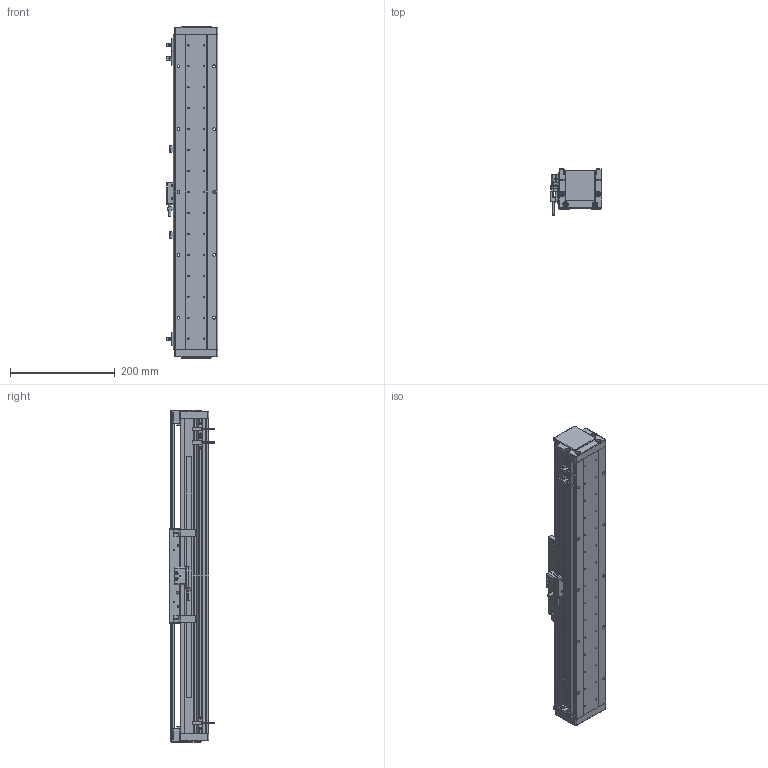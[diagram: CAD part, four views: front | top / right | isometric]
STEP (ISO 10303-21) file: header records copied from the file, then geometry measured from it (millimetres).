
FILE_DESCRIPTION (( 'STEP AP203' ), '1' );
FILE_NAME ('DA-A82-B2-T380-C010-0.2 眻盄萇儂.STEP', '2025-08-13T03:03:44', ( '' ), ( '' ), 'SwSTEP 2.0', 'SolidWorks 2019', '' );
FILE_SCHEMA (( 'CONFIG_CONTROL_DESIGN' ));
Length unit declared in the file: millimetre
Products named in the file (21): AU82-HT-M-00 賑雄怢啣; 复件 纯铜油杯 6x6mm^AU82-M 滚珠滑台; 复件 DA82-DG-H-N-00 端盖^DA-A82-B2-T-C010-0.2(默认_按加工_); 复件 复件 DA82-XJ-00 缓冲橡胶^DA-A82-B2-T-C010-0.2; DA-A82-B2-T380-C010-0.2 眻盄萇儂; 复件 DA95-GT-T-00 底座钢轨^IU-AU82-L 底座导轨; 葩璃 PM-T45^DA-A82-B2-T-C010-0.2; IU-AU82-L 菁釱絳寢; AU82-M-00 珨极趙賑雄怢啣; 葩璃 DA82-T-002-00 裔啣^DA-A82-B2-T-C010-0.2; 葩璃 DA60-DMT-DTJ-00 黍杅芛盓殤^DA-A82-B2-T-C010-0.2; AU82-M 幗紩賑怢; 葩璃 DMT-010 1米m 0.2M^DA-A82-B2-T-C010-0.2; ｸｴｼ BKM02-W040-C1-TP-DA-3.0 ﾖｱﾏﾟｵ扈巐ｯﾗﾓ^DA-A82-B2-T-C010-0.2; IU-AU82-L-00 菁釱(L600); 葩璃 XD-U-02  棠掑喜^DA-A82-B2-T-C010-0.2; 复件 DA95-B2-GT-00 滑块钢轨^AU82-M-00 一体化滑动台板; 葩璃 鞠褒情蹟譫 M3^DA-A82-B2-T-C010-0.2; 葩璃 BKM01-W040-TRL^DA-A82-B2-T-C010-0.2; DA-A60-GYP-DMT-00 光电感应片^DA-A82-B2-T-C010-0.2(默认); 葩璃 DA82-B2-DP-00 結え^AU82-M 幗紩賑怢
Assembly tree (36 placements, depth 4):
  DA-A82-B2-T380-C010-0.2 眻盄萇儂
    IU-AU82-L 菁釱絳寢
      IU-AU82-L-00 菁釱(L600)
      复件 DA95-GT-T-00 底座钢轨^IU-AU82-L 底座导轨  x2
    AU82-M 幗紩賑怢
      AU82-M-00 珨极趙賑雄怢啣
        AU82-HT-M-00 賑雄怢啣
        复件 DA95-B2-GT-00 滑块钢轨^AU82-M-00 一体化滑动台板  x4
      葩璃 DA82-B2-DP-00 結え^AU82-M 幗紩賑怢  x2
      复件 纯铜油杯 6x6mm^AU82-M 滚珠滑台  x2
    葩璃 DA60-DMT-DTJ-00 黍杅芛盓殤^DA-A82-B2-T-C010-0.2
    葩璃 DMT-010 1米m 0.2M^DA-A82-B2-T-C010-0.2
    DA-A60-GYP-DMT-00 光电感应片^DA-A82-B2-T-C010-0.2(默认)  x2
    ｸｴｼ BKM02-W040-C1-TP-DA-3.0 ﾖｱﾏﾟｵ扈巐ｯﾗﾓ^DA-A82-B2-T-C010-0.2
    复件 复件 DA82-XJ-00 缓冲橡胶^DA-A82-B2-T-C010-0.2  x2
    复件 DA82-DG-H-N-00 端盖^DA-A82-B2-T-C010-0.2(默认_按加工_)  x2
    葩璃 DA82-T-002-00 裔啣^DA-A82-B2-T-C010-0.2
    葩璃 BKM01-W040-TRL^DA-A82-B2-T-C010-0.2
    葩璃 PM-T45^DA-A82-B2-T-C010-0.2  x3
    葩璃 XD-U-02  棠掑喜^DA-A82-B2-T-C010-0.2
    葩璃 鞠褒情蹟譫 M3^DA-A82-B2-T-C010-0.2  x6
Bounding box: 98.95 x 87.2 x 634 mm (x, y, z)
Volume: 2255576 mm3; surface area: 637620.5 mm2
Topology: 40 solids, 64 shells, 1925 faces, 4966 edges, 3076 vertices
Faces by surface type: cylinder 843, plane 774, cone 252, torus 38, bspline 12, sphere 6
Entity records: 49203 total; most frequent: CARTESIAN_POINT 10445, DIRECTION 7790, ORIENTED_EDGE 7254, EDGE_CURVE 3627, AXIS2_PLACEMENT_3D 2914, VERTEX_POINT 2343, VECTOR 1962, LINE 1962
